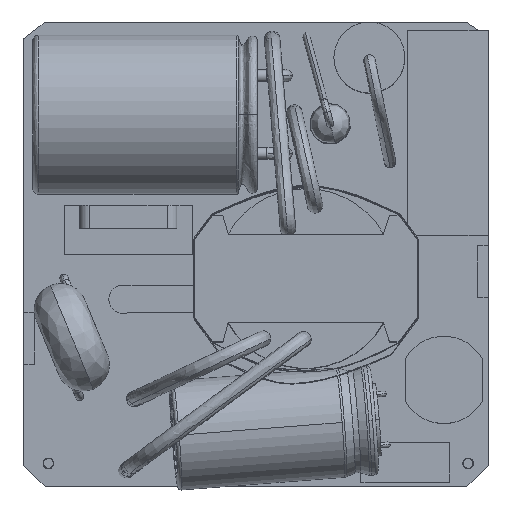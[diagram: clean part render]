
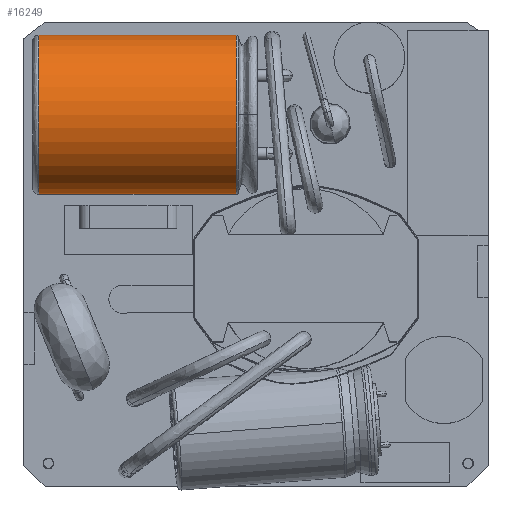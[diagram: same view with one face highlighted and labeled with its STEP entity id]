
A CAD part, top view. The second image highlights one B-rep face of the part: STEP entity #16249.
In plain terms, the highlighted cylindrical face has radius 4.09 mm (diameter 8.18 mm), a partial arc.
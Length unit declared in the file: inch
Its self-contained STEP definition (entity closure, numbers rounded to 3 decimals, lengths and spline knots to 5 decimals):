
#12 = DIRECTION ( 'NONE',  ( -1., 0., 0. ) ) ;
#340 = LINE ( 'NONE', #6418, #4648 ) ;
#525 = DIRECTION ( 'NONE',  ( -1., 0., 0. ) ) ;
#608 = LINE ( 'NONE', #8674, #3784 ) ;
#1861 = CARTESIAN_POINT ( 'NONE',  ( 0., 0., 0. ) ) ;
#2902 = DIRECTION ( 'NONE',  ( 1., 0., 0. ) ) ;
#3606 = VERTEX_POINT ( 'NONE', #8961 ) ;
#3784 = VECTOR ( 'NONE', #10525, 39.37008 ) ;
#4453 = DIRECTION ( 'NONE',  ( -1., 0., 0. ) ) ;
#4648 = VECTOR ( 'NONE', #4453, 39.37008 ) ;
#4818 = EDGE_CURVE ( 'NONE', #5886, #3606, #608, .T. ) ;
#5574 = CYLINDRICAL_SURFACE ( 'NONE', #7900, 0.16102 ) ;
#5886 = VERTEX_POINT ( 'NONE', #14946 ) ;
#5955 = ORIENTED_EDGE ( 'NONE', *, *, #11398, .F. ) ;
#6418 = CARTESIAN_POINT ( 'NONE',  ( 0., 0., 0.16102 ) ) ;
#7177 = VERTEX_POINT ( 'NONE', #10532 ) ;
#7770 = VERTEX_POINT ( 'NONE', #15646 ) ;
#7900 = AXIS2_PLACEMENT_3D ( 'NONE', #1861, #12, #11095 ) ;
#8674 = CARTESIAN_POINT ( 'NONE',  ( 0., 0., -0.16102 ) ) ;
#8961 = CARTESIAN_POINT ( 'NONE',  ( 0.0422, 0., -0.16102 ) ) ;
#10127 = ORIENTED_EDGE ( 'NONE', *, *, #15271, .T. ) ;
#10525 = DIRECTION ( 'NONE',  ( -1., 0., 0. ) ) ;
#10532 = CARTESIAN_POINT ( 'NONE',  ( 0.44252, 0., 0.16102 ) ) ;
#11095 = DIRECTION ( 'NONE',  ( 0., 0., 1. ) ) ;
#11398 = EDGE_CURVE ( 'NONE', #7177, #7770, #340, .T. ) ;
#11525 = CARTESIAN_POINT ( 'NONE',  ( 0.44252, 0., 0. ) ) ;
#13277 = CIRCLE ( 'NONE', #18831, 0.16102 ) ;
#13414 = DIRECTION ( 'NONE',  ( 0., 0., 1. ) ) ;
#13929 = CARTESIAN_POINT ( 'NONE',  ( 0.0422, 0., 0. ) ) ;
#14235 = EDGE_LOOP ( 'NONE', ( #15250, #15262, #10127, #5955 ) ) ;
#14946 = CARTESIAN_POINT ( 'NONE',  ( 0.44252, 0., -0.16102 ) ) ;
#15250 = ORIENTED_EDGE ( 'NONE', *, *, #15870, .T. ) ;
#15262 = ORIENTED_EDGE ( 'NONE', *, *, #4818, .T. ) ;
#15271 = EDGE_CURVE ( 'NONE', #3606, #7770, #23670, .T. ) ;
#15646 = CARTESIAN_POINT ( 'NONE',  ( 0.0422, 0., 0.16102 ) ) ;
#15727 = AXIS2_PLACEMENT_3D ( 'NONE', #13929, #2902, #15760 ) ;
#15760 = DIRECTION ( 'NONE',  ( 0., 0., 1. ) ) ;
#15870 = EDGE_CURVE ( 'NONE', #7177, #5886, #13277, .T. ) ;
#16249 = ADVANCED_FACE ( 'NONE', ( #17704 ), #5574, .T. ) ;
#17704 = FACE_OUTER_BOUND ( 'NONE', #14235, .T. ) ;
#18831 = AXIS2_PLACEMENT_3D ( 'NONE', #11525, #525, #13414 ) ;
#23670 = CIRCLE ( 'NONE', #15727, 0.16102 ) ;
